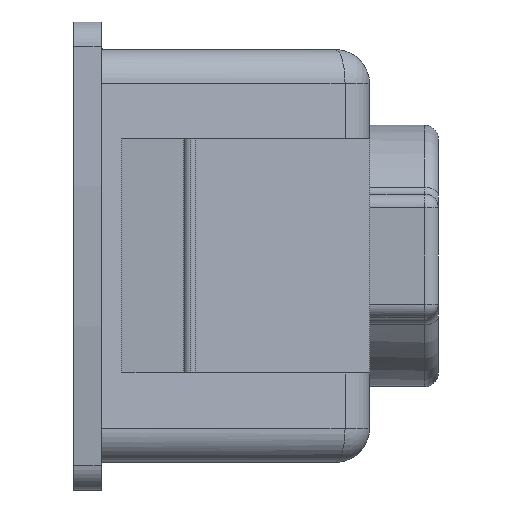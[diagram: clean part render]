
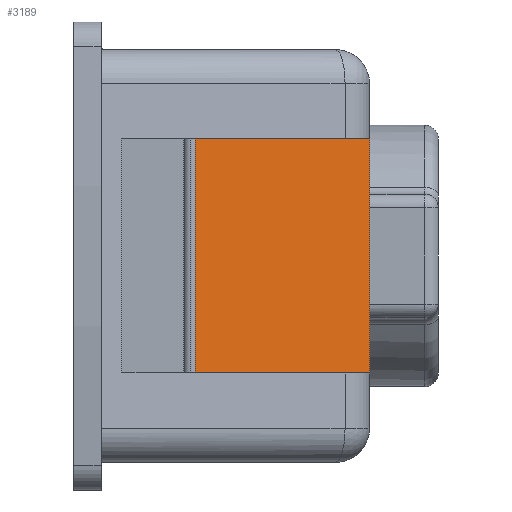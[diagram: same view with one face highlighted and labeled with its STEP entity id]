
A CAD part, left-side view. The second image highlights one B-rep face of the part: STEP entity #3189.
In plain terms, the highlighted planar face has unit normal (-0.759, -0.651, 0).
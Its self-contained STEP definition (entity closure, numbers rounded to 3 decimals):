
#126 = LINE ( 'NONE', #853, #3369 ) ;
#248 = VERTEX_POINT ( 'NONE', #2220 ) ;
#439 = CARTESIAN_POINT ( 'NONE',  ( -38.379, -8.826, 8.5 ) ) ;
#503 = ORIENTED_EDGE ( 'NONE', *, *, #4842, .T. ) ;
#515 = CARTESIAN_POINT ( 'NONE',  ( -27.5, -21.5, 8.5 ) ) ;
#574 = VERTEX_POINT ( 'NONE', #515 ) ;
#660 = VERTEX_POINT ( 'NONE', #1913 ) ;
#690 = VECTOR ( 'NONE', #4130, 1000. ) ;
#853 = CARTESIAN_POINT ( 'NONE',  ( -27.5, -21.5, 8.5 ) ) ;
#861 = DIRECTION ( 'NONE',  ( 0., 0., -1. ) ) ;
#1165 = PLANE ( 'NONE',  #2501 ) ;
#1288 = ORIENTED_EDGE ( 'NONE', *, *, #5445, .F. ) ;
#1364 = ORIENTED_EDGE ( 'NONE', *, *, #4164, .F. ) ;
#1394 = FACE_OUTER_BOUND ( 'NONE', #1635, .T. ) ;
#1591 = DIRECTION ( 'NONE',  ( 0.759, 0.651, 0. ) ) ;
#1635 = EDGE_LOOP ( 'NONE', ( #503, #1364, #1288, #3411 ) ) ;
#1670 = CARTESIAN_POINT ( 'NONE',  ( -38.379, -8.826, -8.5 ) ) ;
#1697 = LINE ( 'NONE', #4845, #4062 ) ;
#1849 = LINE ( 'NONE', #2817, #690 ) ;
#1913 = CARTESIAN_POINT ( 'NONE',  ( -27.5, -21.5, -8.5 ) ) ;
#1914 = VECTOR ( 'NONE', #861, 1000. ) ;
#2220 = CARTESIAN_POINT ( 'NONE',  ( -38.379, -8.826, 8.5 ) ) ;
#2486 = CARTESIAN_POINT ( 'NONE',  ( -27.5, -21.5, 8.5 ) ) ;
#2501 = AXIS2_PLACEMENT_3D ( 'NONE', #2486, #1591, #4701 ) ;
#2630 = DIRECTION ( 'NONE',  ( 0.651, -0.759, 0. ) ) ;
#2817 = CARTESIAN_POINT ( 'NONE',  ( -27.5, -21.5, 8.5 ) ) ;
#3078 = DIRECTION ( 'NONE',  ( 0., 0., -1. ) ) ;
#3189 = ADVANCED_FACE ( 'NONE', ( #1394 ), #1165, .F. ) ;
#3362 = EDGE_CURVE ( 'NONE', #248, #5124, #5427, .T. ) ;
#3369 = VECTOR ( 'NONE', #3078, 1000. ) ;
#3411 = ORIENTED_EDGE ( 'NONE', *, *, #3362, .T. ) ;
#4062 = VECTOR ( 'NONE', #2630, 1000. ) ;
#4130 = DIRECTION ( 'NONE',  ( 0.651, -0.759, 0. ) ) ;
#4164 = EDGE_CURVE ( 'NONE', #574, #660, #126, .T. ) ;
#4701 = DIRECTION ( 'NONE',  ( -0.651, 0.759, 0. ) ) ;
#4842 = EDGE_CURVE ( 'NONE', #5124, #660, #1697, .T. ) ;
#4845 = CARTESIAN_POINT ( 'NONE',  ( -27.5, -21.5, -8.5 ) ) ;
#5124 = VERTEX_POINT ( 'NONE', #1670 ) ;
#5427 = LINE ( 'NONE', #439, #1914 ) ;
#5445 = EDGE_CURVE ( 'NONE', #248, #574, #1849, .T. ) ;
